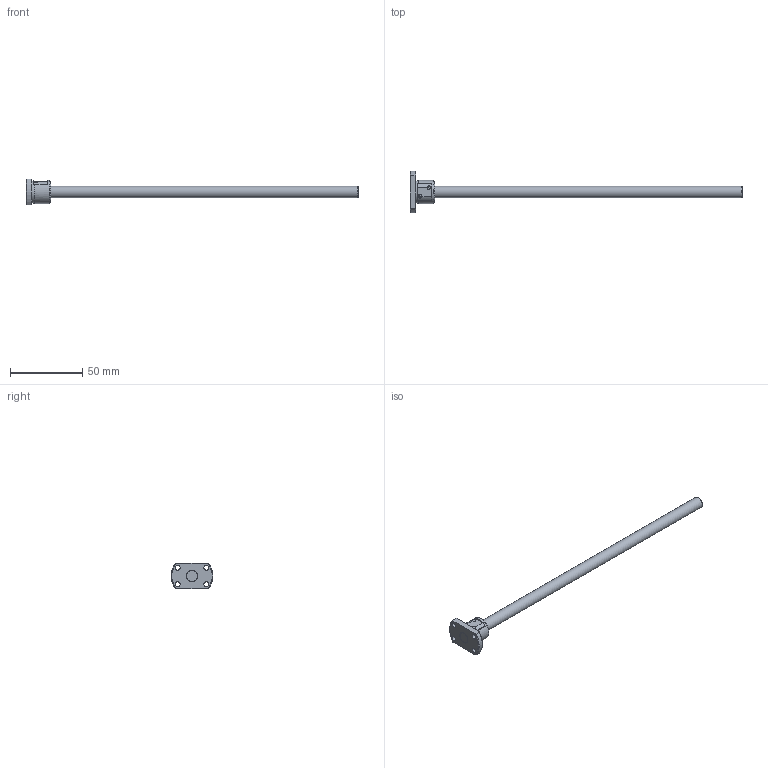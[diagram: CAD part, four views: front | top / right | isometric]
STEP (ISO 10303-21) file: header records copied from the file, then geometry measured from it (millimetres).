
FILE_DESCRIPTION( ( 'STEP AP203' ), '1' );
FILE_NAME( 'e:/temp/worker_90/temp/exporttempdir_5268_1065_ZVTZ2/format_0/PSR0801-230R230C5(0).stp', '2021-10-19T08:14:53', ( 'License CC BY-ND 4.0' ), ( 'CADENAS' ), ' ', 'PARTsolutions', ' ' );
FILE_SCHEMA( ( 'CONFIG_CONTROL_DESIGN' ) );
Length unit declared in the file: millimetre
Products named in the file (3): PSR0801-230R230C5(0); _PSR0801_shaft; _PSR0801_nut
Assembly tree (2 placements, depth 2):
  PSR0801-230R230C5(0)
    _PSR0801_shaft
    _PSR0801_nut
Bounding box: 230 x 29 x 18 mm (x, y, z)
Volume: 15005.7 mm3; surface area: 8316.2 mm2
Topology: 2 solids, 2 shells, 54 faces, 138 edges, 91 vertices
Faces by surface type: plane 25, cylinder 22, cone 7
Full cylindrical faces by diameter (mm): 2.5 x2, 3.4 x4, 8 x2, 15.6 x1, 16 x1
Entity records: 1716 total; most frequent: CARTESIAN_POINT 323, DIRECTION 278, ORIENTED_EDGE 242, EDGE_CURVE 121, AXIS2_PLACEMENT_3D 110, VERTEX_POINT 87, EDGE_LOOP 80, FACE_OUTER_BOUND 64
